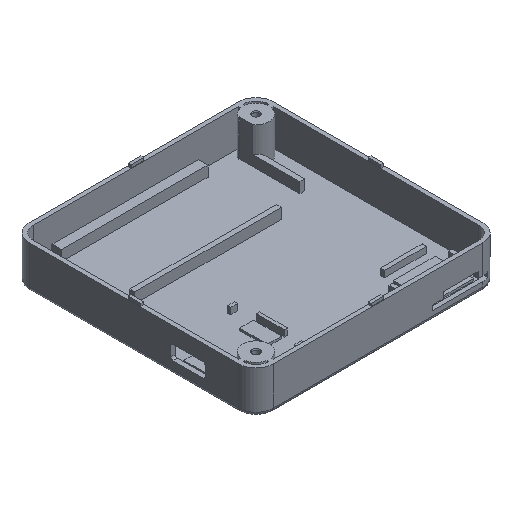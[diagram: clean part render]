
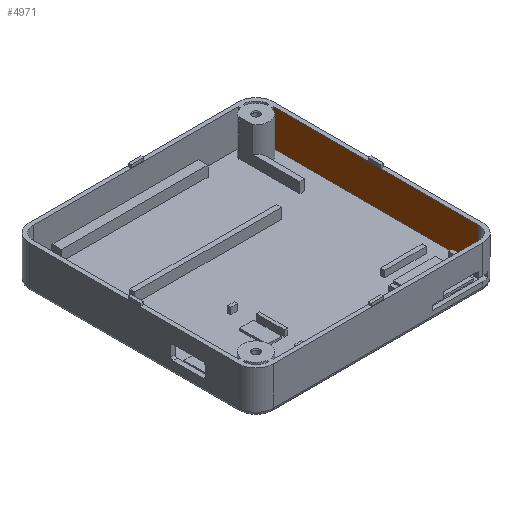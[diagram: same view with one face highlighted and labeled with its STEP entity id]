
A CAD part, isometric view. The second image highlights one B-rep face of the part: STEP entity #4971.
In plain terms, the highlighted planar face has unit normal (-1, 0, 0).
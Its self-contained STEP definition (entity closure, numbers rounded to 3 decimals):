
#126 = PLANE('',#127);
#127 = AXIS2_PLACEMENT_3D('',#128,#129,#130);
#128 = CARTESIAN_POINT('',(-35.,-35.,0.));
#129 = DIRECTION('',(0.,0.,1.));
#130 = DIRECTION('',(1.,0.,0.));
#1304 = VERTEX_POINT('',#1305);
#1305 = CARTESIAN_POINT('',(33.8,28.9,0.));
#1319 = PLANE('',#1320);
#1320 = AXIS2_PLACEMENT_3D('',#1321,#1322,#1323);
#1321 = CARTESIAN_POINT('',(29.5,28.9,-10.4));
#1322 = DIRECTION('',(0.,1.,0.));
#1323 = DIRECTION('',(0.,0.,1.));
#1331 = EDGE_CURVE('',#1332,#1304,#1334,.T.);
#1332 = VERTEX_POINT('',#1333);
#1333 = CARTESIAN_POINT('',(33.8,-30.,0.));
#1334 = SURFACE_CURVE('',#1335,(#1339,#1346),.PCURVE_S1.);
#1335 = LINE('',#1336,#1337);
#1336 = CARTESIAN_POINT('',(33.8,-34.4,0.));
#1337 = VECTOR('',#1338,1.);
#1338 = DIRECTION('',(0.,1.,0.));
#1339 = PCURVE('',#126,#1340);
#1340 = DEFINITIONAL_REPRESENTATION('',(#1341),#1345);
#1341 = LINE('',#1342,#1343);
#1342 = CARTESIAN_POINT('',(68.8,0.6));
#1343 = VECTOR('',#1344,1.);
#1344 = DIRECTION('',(0.,1.));
#1345 = ( GEOMETRIC_REPRESENTATION_CONTEXT(2) 
PARAMETRIC_REPRESENTATION_CONTEXT() REPRESENTATION_CONTEXT('2D SPACE',''
  ) );
#1346 = PCURVE('',#1347,#1352);
#1347 = PLANE('',#1348);
#1348 = AXIS2_PLACEMENT_3D('',#1349,#1350,#1351);
#1349 = CARTESIAN_POINT('',(33.8,-33.8,-10.4));
#1350 = DIRECTION('',(1.,0.,0.));
#1351 = DIRECTION('',(0.,0.,1.));
#1352 = DEFINITIONAL_REPRESENTATION('',(#1353),#1356);
#1353 = B_SPLINE_CURVE_WITH_KNOTS('',1,(#1354,#1355),.UNSPECIFIED.,.F.,
  .F.,(2,2),(4.4,64.4),.PIECEWISE_BEZIER_KNOTS.);
#1354 = CARTESIAN_POINT('',(10.4,-3.8));
#1355 = CARTESIAN_POINT('',(10.4,-63.8));
#1356 = ( GEOMETRIC_REPRESENTATION_CONTEXT(2) 
PARAMETRIC_REPRESENTATION_CONTEXT() REPRESENTATION_CONTEXT('2D SPACE',''
  ) );
#1375 = CYLINDRICAL_SURFACE('',#1376,3.8);
#1376 = AXIS2_PLACEMENT_3D('',#1377,#1378,#1379);
#1377 = CARTESIAN_POINT('',(30.,-30.,-10.4));
#1378 = DIRECTION('',(0.,0.,1.));
#1379 = DIRECTION('',(1.,0.,-0.));
#3744 = PLANE('',#3745);
#3745 = AXIS2_PLACEMENT_3D('',#3746,#3747,#3748);
#3746 = CARTESIAN_POINT('',(-33.8,-33.8,-10.4));
#3747 = DIRECTION('',(0.,0.,1.));
#3748 = DIRECTION('',(1.,0.,0.));
#4710 = VERTEX_POINT('',#4711);
#4711 = CARTESIAN_POINT('',(33.8,28.9,-10.4));
#4734 = EDGE_CURVE('',#4710,#1304,#4735,.T.);
#4735 = SURFACE_CURVE('',#4736,(#4740,#4746),.PCURVE_S1.);
#4736 = LINE('',#4737,#4738);
#4737 = CARTESIAN_POINT('',(33.8,28.9,-10.4));
#4738 = VECTOR('',#4739,1.);
#4739 = DIRECTION('',(0.,0.,1.));
#4740 = PCURVE('',#1319,#4741);
#4741 = DEFINITIONAL_REPRESENTATION('',(#4742),#4745);
#4742 = B_SPLINE_CURVE_WITH_KNOTS('',1,(#4743,#4744),.UNSPECIFIED.,.F.,
  .F.,(2,2),(0.,10.4),.PIECEWISE_BEZIER_KNOTS.);
#4743 = CARTESIAN_POINT('',(0.,4.3));
#4744 = CARTESIAN_POINT('',(10.4,4.3));
#4745 = ( GEOMETRIC_REPRESENTATION_CONTEXT(2) 
PARAMETRIC_REPRESENTATION_CONTEXT() REPRESENTATION_CONTEXT('2D SPACE',''
  ) );
#4746 = PCURVE('',#1347,#4747);
#4747 = DEFINITIONAL_REPRESENTATION('',(#4748),#4751);
#4748 = B_SPLINE_CURVE_WITH_KNOTS('',1,(#4749,#4750),.UNSPECIFIED.,.F.,
  .F.,(2,2),(0.,10.4),.PIECEWISE_BEZIER_KNOTS.);
#4749 = CARTESIAN_POINT('',(0.,-62.7));
#4750 = CARTESIAN_POINT('',(10.4,-62.7));
#4751 = ( GEOMETRIC_REPRESENTATION_CONTEXT(2) 
PARAMETRIC_REPRESENTATION_CONTEXT() REPRESENTATION_CONTEXT('2D SPACE',''
  ) );
#4971 = ADVANCED_FACE('',(#4972),#1347,.F.);
#4972 = FACE_BOUND('',#4973,.F.);
#4973 = EDGE_LOOP('',(#4974,#4975,#4998,#5019));
#4974 = ORIENTED_EDGE('',*,*,#1331,.F.);
#4975 = ORIENTED_EDGE('',*,*,#4976,.F.);
#4976 = EDGE_CURVE('',#4977,#1332,#4979,.T.);
#4977 = VERTEX_POINT('',#4978);
#4978 = CARTESIAN_POINT('',(33.8,-30.,-10.4));
#4979 = SURFACE_CURVE('',#4980,(#4984,#4991),.PCURVE_S1.);
#4980 = LINE('',#4981,#4982);
#4981 = CARTESIAN_POINT('',(33.8,-30.,-10.4));
#4982 = VECTOR('',#4983,1.);
#4983 = DIRECTION('',(0.,0.,1.));
#4984 = PCURVE('',#1347,#4985);
#4985 = DEFINITIONAL_REPRESENTATION('',(#4986),#4990);
#4986 = LINE('',#4987,#4988);
#4987 = CARTESIAN_POINT('',(0.,-3.8));
#4988 = VECTOR('',#4989,1.);
#4989 = DIRECTION('',(1.,0.));
#4990 = ( GEOMETRIC_REPRESENTATION_CONTEXT(2) 
PARAMETRIC_REPRESENTATION_CONTEXT() REPRESENTATION_CONTEXT('2D SPACE',''
  ) );
#4991 = PCURVE('',#1375,#4992);
#4992 = DEFINITIONAL_REPRESENTATION('',(#4993),#4997);
#4993 = LINE('',#4994,#4995);
#4994 = CARTESIAN_POINT('',(-0.,0.));
#4995 = VECTOR('',#4996,1.);
#4996 = DIRECTION('',(-0.,1.));
#4997 = ( GEOMETRIC_REPRESENTATION_CONTEXT(2) 
PARAMETRIC_REPRESENTATION_CONTEXT() REPRESENTATION_CONTEXT('2D SPACE',''
  ) );
#4998 = ORIENTED_EDGE('',*,*,#4999,.T.);
#4999 = EDGE_CURVE('',#4977,#4710,#5000,.T.);
#5000 = SURFACE_CURVE('',#5001,(#5005,#5012),.PCURVE_S1.);
#5001 = LINE('',#5002,#5003);
#5002 = CARTESIAN_POINT('',(33.8,-33.8,-10.4));
#5003 = VECTOR('',#5004,1.);
#5004 = DIRECTION('',(0.,1.,0.));
#5005 = PCURVE('',#1347,#5006);
#5006 = DEFINITIONAL_REPRESENTATION('',(#5007),#5011);
#5007 = LINE('',#5008,#5009);
#5008 = CARTESIAN_POINT('',(0.,0.));
#5009 = VECTOR('',#5010,1.);
#5010 = DIRECTION('',(0.,-1.));
#5011 = ( GEOMETRIC_REPRESENTATION_CONTEXT(2) 
PARAMETRIC_REPRESENTATION_CONTEXT() REPRESENTATION_CONTEXT('2D SPACE',''
  ) );
#5012 = PCURVE('',#3744,#5013);
#5013 = DEFINITIONAL_REPRESENTATION('',(#5014),#5018);
#5014 = LINE('',#5015,#5016);
#5015 = CARTESIAN_POINT('',(67.6,0.));
#5016 = VECTOR('',#5017,1.);
#5017 = DIRECTION('',(0.,1.));
#5018 = ( GEOMETRIC_REPRESENTATION_CONTEXT(2) 
PARAMETRIC_REPRESENTATION_CONTEXT() REPRESENTATION_CONTEXT('2D SPACE',''
  ) );
#5019 = ORIENTED_EDGE('',*,*,#4734,.T.);
